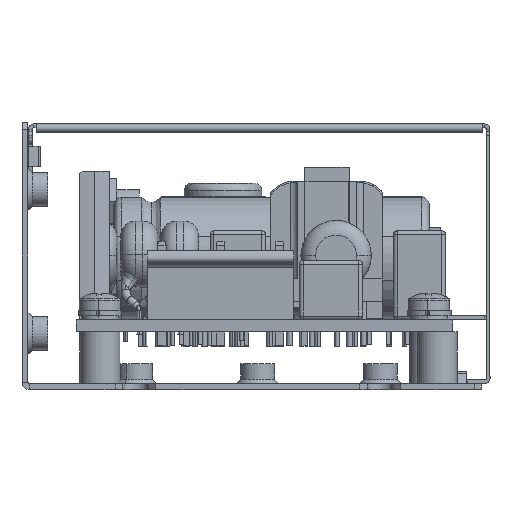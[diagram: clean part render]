
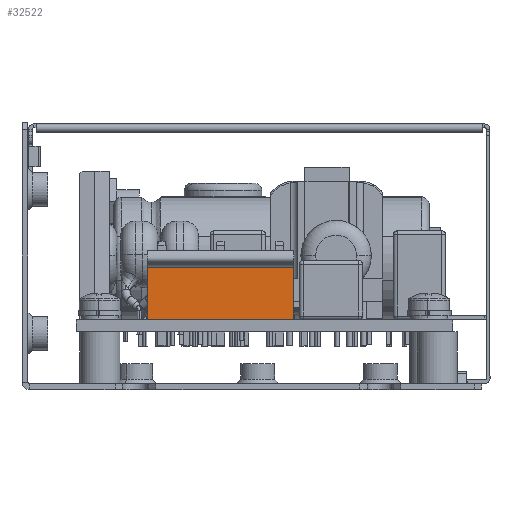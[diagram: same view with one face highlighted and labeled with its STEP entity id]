
A CAD part, left-side view. The second image highlights one B-rep face of the part: STEP entity #32522.
In plain terms, the highlighted planar face has unit normal (-1, 0, 0) as drawn and (0, 0, 1) by its records, which use the part's own axes.
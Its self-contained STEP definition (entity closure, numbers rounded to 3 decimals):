
#2021 = VERTEX_POINT ( 'NONE', #26972 ) ;
#3436 = ORIENTED_EDGE ( 'NONE', *, *, #20478, .T. ) ;
#5578 = CARTESIAN_POINT ( 'NONE',  ( 9.87, -1.6, 4.25 ) ) ;
#6338 = DIRECTION ( 'NONE',  ( -1., 0., 0. ) ) ;
#6797 = ORIENTED_EDGE ( 'NONE', *, *, #13985, .F. ) ;
#9179 = DIRECTION ( 'NONE',  ( 0., -1., 0. ) ) ;
#13985 = EDGE_CURVE ( 'NONE', #2021, #42447, #44387, .T. ) ;
#17338 = PLANE ( 'NONE',  #73884 ) ;
#17463 = CARTESIAN_POINT ( 'NONE',  ( -9.87, -1.6, 4.25 ) ) ;
#18103 = CARTESIAN_POINT ( 'NONE',  ( 9.87, -1.6, 4.25 ) ) ;
#20478 = EDGE_CURVE ( 'NONE', #2021, #50168, #95500, .T. ) ;
#20944 = CARTESIAN_POINT ( 'NONE',  ( 9.87, -1.6, 4.25 ) ) ;
#26972 = CARTESIAN_POINT ( 'NONE',  ( 9.87, 5.458, 4.25 ) ) ;
#27735 = VECTOR ( 'NONE', #72187, 1000. ) ;
#29815 = LINE ( 'NONE', #18103, #81471 ) ;
#32522 = ADVANCED_FACE ( 'NONE', ( #41350 ), #17338, .F. ) ;
#40533 = EDGE_LOOP ( 'NONE', ( #47850, #53024, #6797, #3436 ) ) ;
#41350 = FACE_OUTER_BOUND ( 'NONE', #40533, .T. ) ;
#42447 = VERTEX_POINT ( 'NONE', #77200 ) ;
#44387 = LINE ( 'NONE', #20944, #50970 ) ;
#46106 = CARTESIAN_POINT ( 'NONE',  ( -9.87, 5.458, 4.25 ) ) ;
#47850 = ORIENTED_EDGE ( 'NONE', *, *, #88467, .T. ) ;
#50168 = VERTEX_POINT ( 'NONE', #46106 ) ;
#50970 = VECTOR ( 'NONE', #9179, 1000. ) ;
#53024 = ORIENTED_EDGE ( 'NONE', *, *, #55442, .F. ) ;
#55442 = EDGE_CURVE ( 'NONE', #42447, #58430, #29815, .T. ) ;
#58430 = VERTEX_POINT ( 'NONE', #17463 ) ;
#72187 = DIRECTION ( 'NONE',  ( -1., 0., 0. ) ) ;
#73884 = AXIS2_PLACEMENT_3D ( 'NONE', #5578, #108269, #96519 ) ;
#77086 = DIRECTION ( 'NONE',  ( 0., -1., 0. ) ) ;
#77200 = CARTESIAN_POINT ( 'NONE',  ( 9.87, -1.6, 4.25 ) ) ;
#81471 = VECTOR ( 'NONE', #6338, 1000. ) ;
#83838 = CARTESIAN_POINT ( 'NONE',  ( 9.87, 5.458, 4.25 ) ) ;
#88467 = EDGE_CURVE ( 'NONE', #50168, #58430, #100465, .T. ) ;
#88740 = CARTESIAN_POINT ( 'NONE',  ( -9.87, -1.6, 4.25 ) ) ;
#95500 = LINE ( 'NONE', #83838, #27735 ) ;
#96519 = DIRECTION ( 'NONE',  ( -1., 0., 0. ) ) ;
#100465 = LINE ( 'NONE', #88740, #101081 ) ;
#101081 = VECTOR ( 'NONE', #77086, 1000. ) ;
#108269 = DIRECTION ( 'NONE',  ( 0., 0., -1. ) ) ;
